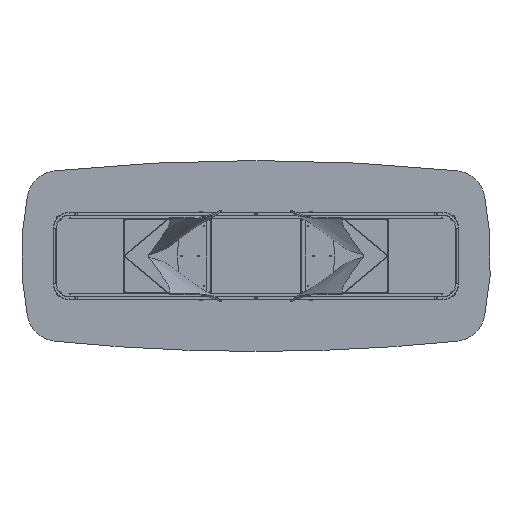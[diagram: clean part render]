
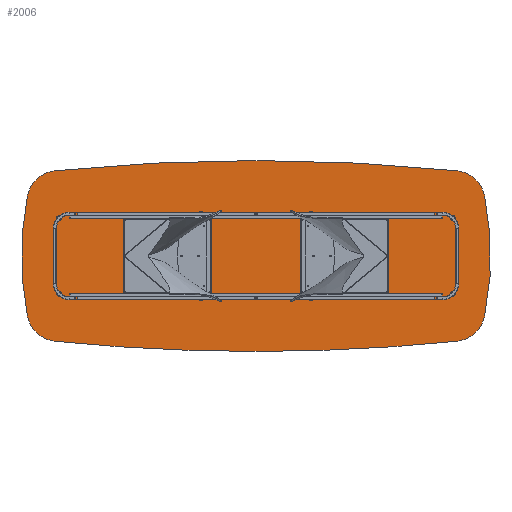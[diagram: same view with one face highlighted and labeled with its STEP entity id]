
A CAD part, front view. The second image highlights one B-rep face of the part: STEP entity #2006.
In plain terms, the highlighted planar face has unit normal (0, -1, 0).
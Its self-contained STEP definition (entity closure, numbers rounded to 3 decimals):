
#363 = CARTESIAN_POINT ( 'NONE',  ( 1241.22, 0., 337.213 ) ) ;
#556 = DIRECTION ( 'NONE',  ( 0., 1., 0. ) ) ;
#604 = DIRECTION ( 'NONE',  ( 0., -1., 0. ) ) ;
#909 = VERTEX_POINT ( 'NONE', #15760 ) ;
#1115 = DIRECTION ( 'NONE',  ( 0., -1., 0. ) ) ;
#1557 = DIRECTION ( 'NONE',  ( 0., 0., 1. ) ) ;
#1645 = ORIENTED_EDGE ( 'NONE', *, *, #18575, .F. ) ;
#1819 = EDGE_CURVE ( 'NONE', #9156, #14273, #5616, .T. ) ;
#2006 = ADVANCED_FACE ( 'NONE', ( #15477 ), #19155, .F. ) ;
#2122 = CIRCLE ( 'NONE', #11390, 12500. ) ;
#2165 = CARTESIAN_POINT ( 'NONE',  ( 0., 0., 11900. ) ) ;
#2433 = ORIENTED_EDGE ( 'NONE', *, *, #15549, .F. ) ;
#2489 = CARTESIAN_POINT ( 'NONE',  ( 0., 0., 11900. ) ) ;
#2682 = AXIS2_PLACEMENT_3D ( 'NONE', #3007, #10090, #11951 ) ;
#2928 = DIRECTION ( 'NONE',  ( 0., 1., 0. ) ) ;
#2938 = CARTESIAN_POINT ( 'NONE',  ( 1261.402, 0., -536.192 ) ) ;
#2974 = CARTESIAN_POINT ( 'NONE',  ( -1437.245, 0., 376.885 ) ) ;
#3007 = CARTESIAN_POINT ( 'NONE',  ( -1241.22, 0., -337.213 ) ) ;
#4366 = VERTEX_POINT ( 'NONE', #2974 ) ;
#4828 = VERTEX_POINT ( 'NONE', #14712 ) ;
#5588 = EDGE_CURVE ( 'NONE', #18409, #11597, #11226, .T. ) ;
#5616 = CIRCLE ( 'NONE', #14149, 12500. ) ;
#5695 = VERTEX_POINT ( 'NONE', #8812 ) ;
#5902 = CIRCLE ( 'NONE', #19581, 200. ) ;
#6650 = DIRECTION ( 'NONE',  ( 0., 1., 0. ) ) ;
#6740 = CARTESIAN_POINT ( 'NONE',  ( 0., 0., -11900. ) ) ;
#7231 = CIRCLE ( 'NONE', #9823, 200. ) ;
#8371 = CARTESIAN_POINT ( 'NONE',  ( 0., 0., -600. ) ) ;
#8586 = AXIS2_PLACEMENT_3D ( 'NONE', #22519, #6650, #13733 ) ;
#8647 = ORIENTED_EDGE ( 'NONE', *, *, #5588, .T. ) ;
#8787 = EDGE_CURVE ( 'NONE', #11396, #4366, #7231, .T. ) ;
#8812 = CARTESIAN_POINT ( 'NONE',  ( 1261.402, 0., 536.192 ) ) ;
#9156 = VERTEX_POINT ( 'NONE', #2938 ) ;
#9591 = AXIS2_PLACEMENT_3D ( 'NONE', #22532, #10374, #1557 ) ;
#9823 = AXIS2_PLACEMENT_3D ( 'NONE', #17113, #1115, #22441 ) ;
#9833 = DIRECTION ( 'NONE',  ( 0., 0., 1. ) ) ;
#10054 = ORIENTED_EDGE ( 'NONE', *, *, #10207, .T. ) ;
#10070 = ORIENTED_EDGE ( 'NONE', *, *, #14256, .F. ) ;
#10090 = DIRECTION ( 'NONE',  ( 0., -1., 0. ) ) ;
#10207 = EDGE_CURVE ( 'NONE', #4828, #5695, #12079, .T. ) ;
#10374 = DIRECTION ( 'NONE',  ( 0., 1., 0. ) ) ;
#10584 = EDGE_CURVE ( 'NONE', #18409, #4366, #12098, .T. ) ;
#10976 = CARTESIAN_POINT ( 'NONE',  ( -1261.402, 0., -536.192 ) ) ;
#11226 = CIRCLE ( 'NONE', #2682, 200. ) ;
#11338 = AXIS2_PLACEMENT_3D ( 'NONE', #363, #604, #17990 ) ;
#11390 = AXIS2_PLACEMENT_3D ( 'NONE', #6740, #19243, #13827 ) ;
#11396 = VERTEX_POINT ( 'NONE', #14727 ) ;
#11597 = VERTEX_POINT ( 'NONE', #10976 ) ;
#11870 = CIRCLE ( 'NONE', #22597, 12500. ) ;
#11951 = DIRECTION ( 'NONE',  ( 0., 0., 1. ) ) ;
#12079 = CIRCLE ( 'NONE', #11338, 200. ) ;
#12098 = CIRCLE ( 'NONE', #18016, 1900. ) ;
#12293 = CARTESIAN_POINT ( 'NONE',  ( 425., 0., 0. ) ) ;
#13733 = DIRECTION ( 'NONE',  ( 0., 0., 1. ) ) ;
#13827 = DIRECTION ( 'NONE',  ( 0., 0., 1. ) ) ;
#13952 = EDGE_LOOP ( 'NONE', ( #10070, #18975, #17401, #8647, #1645, #18058, #17313, #2433, #10054 ) ) ;
#14149 = AXIS2_PLACEMENT_3D ( 'NONE', #2489, #2928, #18810 ) ;
#14256 = EDGE_CURVE ( 'NONE', #11396, #5695, #2122, .T. ) ;
#14273 = VERTEX_POINT ( 'NONE', #8371 ) ;
#14712 = CARTESIAN_POINT ( 'NONE',  ( 1437.245, 0., 376.885 ) ) ;
#14727 = CARTESIAN_POINT ( 'NONE',  ( -1261.402, 0., 536.192 ) ) ;
#15073 = CARTESIAN_POINT ( 'NONE',  ( 1241.22, 0., -337.213 ) ) ;
#15435 = DIRECTION ( 'NONE',  ( 0., 0., 1. ) ) ;
#15477 = FACE_OUTER_BOUND ( 'NONE', #13952, .T. ) ;
#15549 = EDGE_CURVE ( 'NONE', #4828, #909, #22531, .T. ) ;
#15760 = CARTESIAN_POINT ( 'NONE',  ( 1437.245, 0., -376.885 ) ) ;
#16335 = EDGE_CURVE ( 'NONE', #9156, #909, #5902, .T. ) ;
#16440 = DIRECTION ( 'NONE',  ( 0., 0., 1. ) ) ;
#16786 = DIRECTION ( 'NONE',  ( 0., -1., 0. ) ) ;
#17113 = CARTESIAN_POINT ( 'NONE',  ( -1241.22, 0., 337.213 ) ) ;
#17313 = ORIENTED_EDGE ( 'NONE', *, *, #16335, .T. ) ;
#17401 = ORIENTED_EDGE ( 'NONE', *, *, #10584, .F. ) ;
#17990 = DIRECTION ( 'NONE',  ( 0., 0., 1. ) ) ;
#18016 = AXIS2_PLACEMENT_3D ( 'NONE', #12293, #22477, #15435 ) ;
#18058 = ORIENTED_EDGE ( 'NONE', *, *, #1819, .F. ) ;
#18409 = VERTEX_POINT ( 'NONE', #20595 ) ;
#18575 = EDGE_CURVE ( 'NONE', #14273, #11597, #11870, .T. ) ;
#18810 = DIRECTION ( 'NONE',  ( 0., 0., 1. ) ) ;
#18975 = ORIENTED_EDGE ( 'NONE', *, *, #8787, .T. ) ;
#19155 = PLANE ( 'NONE',  #8586 ) ;
#19243 = DIRECTION ( 'NONE',  ( 0., 1., 0. ) ) ;
#19581 = AXIS2_PLACEMENT_3D ( 'NONE', #15073, #16786, #9833 ) ;
#20595 = CARTESIAN_POINT ( 'NONE',  ( -1437.245, 0., -376.885 ) ) ;
#22441 = DIRECTION ( 'NONE',  ( 0., 0., 1. ) ) ;
#22477 = DIRECTION ( 'NONE',  ( 0., 1., 0. ) ) ;
#22519 = CARTESIAN_POINT ( 'NONE',  ( -212.5, 0., 5950. ) ) ;
#22531 = CIRCLE ( 'NONE', #9591, 1900. ) ;
#22532 = CARTESIAN_POINT ( 'NONE',  ( -425., 0., 0. ) ) ;
#22597 = AXIS2_PLACEMENT_3D ( 'NONE', #2165, #556, #16440 ) ;
